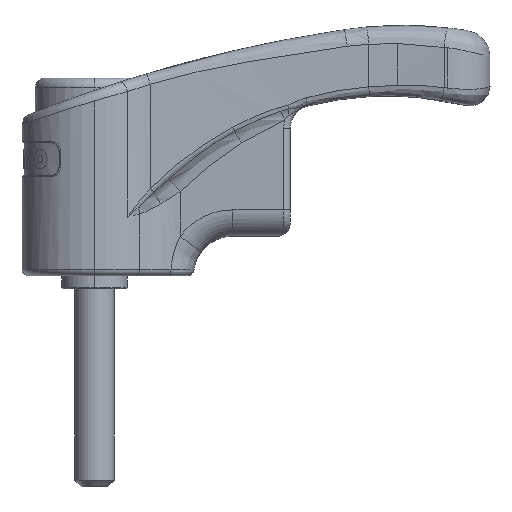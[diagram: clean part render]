
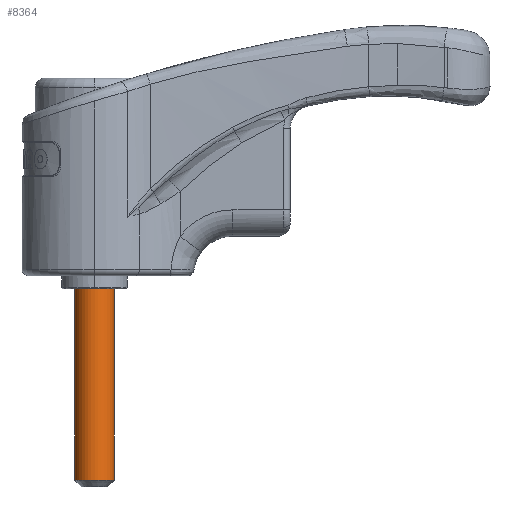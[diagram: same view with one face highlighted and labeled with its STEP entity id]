
A CAD part, front view. The second image highlights one B-rep face of the part: STEP entity #8364.
In plain terms, the highlighted cylindrical face has radius 3 mm (diameter 6 mm), a partial arc.
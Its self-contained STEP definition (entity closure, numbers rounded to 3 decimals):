
#441 = DIRECTION ( 'NONE',  ( 0., 1., 0. ) ) ;
#1313 = AXIS2_PLACEMENT_3D ( 'NONE', #6649, #4180, #441 ) ;
#1504 = CARTESIAN_POINT ( 'NONE',  ( 3., 0., 0.5 ) ) ;
#1765 = AXIS2_PLACEMENT_3D ( 'NONE', #10974, #13167, #3006 ) ;
#2089 = DIRECTION ( 'NONE',  ( -1., 0., 0. ) ) ;
#2165 = VERTEX_POINT ( 'NONE', #1504 ) ;
#2319 = CARTESIAN_POINT ( 'NONE',  ( 0., 0., 0.5 ) ) ;
#2805 = DIRECTION ( 'NONE',  ( 0., 0., 1. ) ) ;
#3006 = DIRECTION ( 'NONE',  ( -1., 0., 0. ) ) ;
#3022 = ORIENTED_EDGE ( 'NONE', *, *, #3592, .T. ) ;
#3334 = EDGE_CURVE ( 'NONE', #4035, #9470, #5370, .T. ) ;
#3592 = EDGE_CURVE ( 'NONE', #8099, #12390, #12845, .T. ) ;
#3749 = CARTESIAN_POINT ( 'NONE',  ( -3., 0., -24.999 ) ) ;
#4035 = VERTEX_POINT ( 'NONE', #4402 ) ;
#4180 = DIRECTION ( 'NONE',  ( 0., 0., -1. ) ) ;
#4402 = CARTESIAN_POINT ( 'NONE',  ( 0., -3., 0.5 ) ) ;
#5105 = ORIENTED_EDGE ( 'NONE', *, *, #12190, .T. ) ;
#5370 = CIRCLE ( 'NONE', #1313, 3. ) ;
#5420 = ORIENTED_EDGE ( 'NONE', *, *, #3334, .T. ) ;
#5591 = VECTOR ( 'NONE', #2805, 1000. ) ;
#5893 = CYLINDRICAL_SURFACE ( 'NONE', #1765, 3. ) ;
#6528 = CARTESIAN_POINT ( 'NONE',  ( 3., 0., -24.999 ) ) ;
#6649 = CARTESIAN_POINT ( 'NONE',  ( 0., 0., 0.5 ) ) ;
#6722 = DIRECTION ( 'NONE',  ( 0., 0., 1. ) ) ;
#6780 = CARTESIAN_POINT ( 'NONE',  ( -3., 0., -29. ) ) ;
#7427 = EDGE_CURVE ( 'NONE', #8099, #9470, #11900, .T. ) ;
#7514 = AXIS2_PLACEMENT_3D ( 'NONE', #9175, #10317, #2089 ) ;
#7997 = AXIS2_PLACEMENT_3D ( 'NONE', #2319, #8214, #9415 ) ;
#8099 = VERTEX_POINT ( 'NONE', #6780 ) ;
#8156 = CARTESIAN_POINT ( 'NONE',  ( 3., 0., -29. ) ) ;
#8214 = DIRECTION ( 'NONE',  ( 0., 0., -1. ) ) ;
#8364 = ADVANCED_FACE ( 'NONE', ( #12034 ), #5893, .T. ) ;
#8933 = ORIENTED_EDGE ( 'NONE', *, *, #7427, .F. ) ;
#9059 = VECTOR ( 'NONE', #6722, 1000. ) ;
#9175 = CARTESIAN_POINT ( 'NONE',  ( 0., 0., -29. ) ) ;
#9415 = DIRECTION ( 'NONE',  ( 0., 1., 0. ) ) ;
#9470 = VERTEX_POINT ( 'NONE', #12213 ) ;
#10317 = DIRECTION ( 'NONE',  ( 0., 0., 1. ) ) ;
#10974 = CARTESIAN_POINT ( 'NONE',  ( 0., 0., -24.999 ) ) ;
#11790 = LINE ( 'NONE', #6528, #9059 ) ;
#11900 = LINE ( 'NONE', #3749, #5591 ) ;
#12034 = FACE_OUTER_BOUND ( 'NONE', #12727, .T. ) ;
#12190 = EDGE_CURVE ( 'NONE', #12390, #2165, #11790, .T. ) ;
#12213 = CARTESIAN_POINT ( 'NONE',  ( -3., 0., 0.5 ) ) ;
#12252 = ORIENTED_EDGE ( 'NONE', *, *, #13139, .T. ) ;
#12390 = VERTEX_POINT ( 'NONE', #8156 ) ;
#12705 = CIRCLE ( 'NONE', #7997, 3. ) ;
#12727 = EDGE_LOOP ( 'NONE', ( #3022, #5105, #12252, #5420, #8933 ) ) ;
#12845 = CIRCLE ( 'NONE', #7514, 3. ) ;
#13139 = EDGE_CURVE ( 'NONE', #2165, #4035, #12705, .T. ) ;
#13167 = DIRECTION ( 'NONE',  ( 0., 0., 1. ) ) ;
